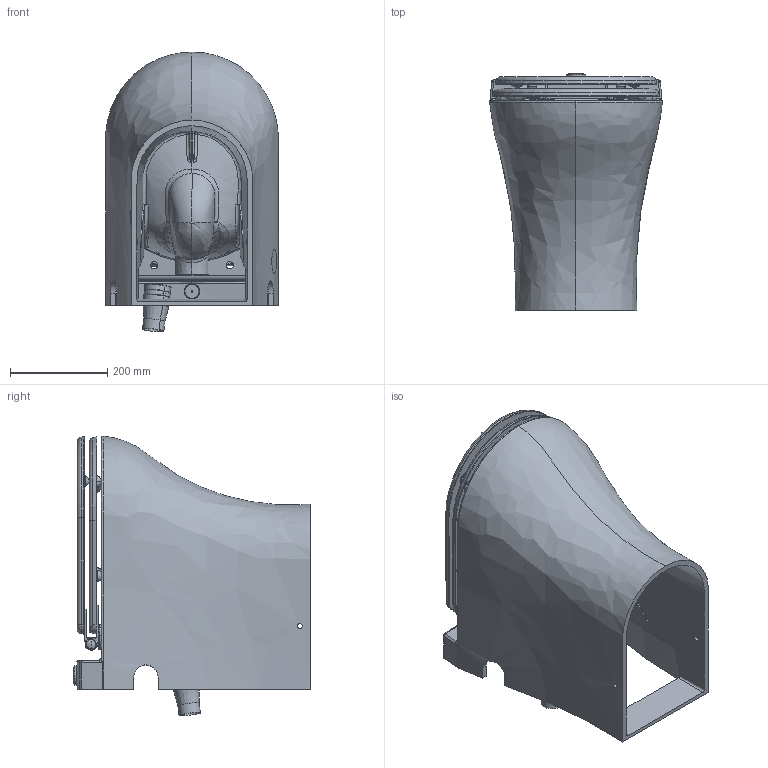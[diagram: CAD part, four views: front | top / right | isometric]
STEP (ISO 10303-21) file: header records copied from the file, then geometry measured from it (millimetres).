
FILE_DESCRIPTION (( 'STEP AP214' ), '1' );
FILE_NAME ('EXCLUSIVE MEDIUM WEB.STEP', '2016-03-24T10:17:06', ( 'admin' ), ( '' ), 'SwSTEP 2.0', 'SolidWorks 2015', '' );
FILE_SCHEMA (( 'AUTOMOTIVE_DESIGN' ));
Length unit declared in the file: millimetre
Products named in the file (6): bouton chasse; SOR2051517; rajout medium; Abattant C72 pour marin short et medium; BIDET SN 35 (2010); EXCLUSIVE MEDIUM  WEB
Assembly tree (5 placements, depth 2):
  EXCLUSIVE MEDIUM  WEB
    BIDET SN 35 (2010)
    Abattant C72 pour marin short et medium
    rajout medium
    SOR2051517
    bouton chasse
Bounding box: 354.19 x 486.47 x 574.29 mm (x, y, z)
Volume: 19831117.5 mm3; surface area: 2348788.9 mm2
Topology: 24 solids, 24 shells, 1298 faces, 3265 edges, 2033 vertices
Faces by surface type: plane 374, cylinder 316, bspline 289, cone 176, torus 130, sphere 13
Entity records: 271420 total; most frequent: CARTESIAN_POINT 233122, ORIENTED_EDGE 6470, DIRECTION 5531, EDGE_CURVE 3235, AXIS2_PLACEMENT_3D 2215, VERTEX_POINT 2033, EDGE_LOOP 1404, FACE_OUTER_BOUND 1298
